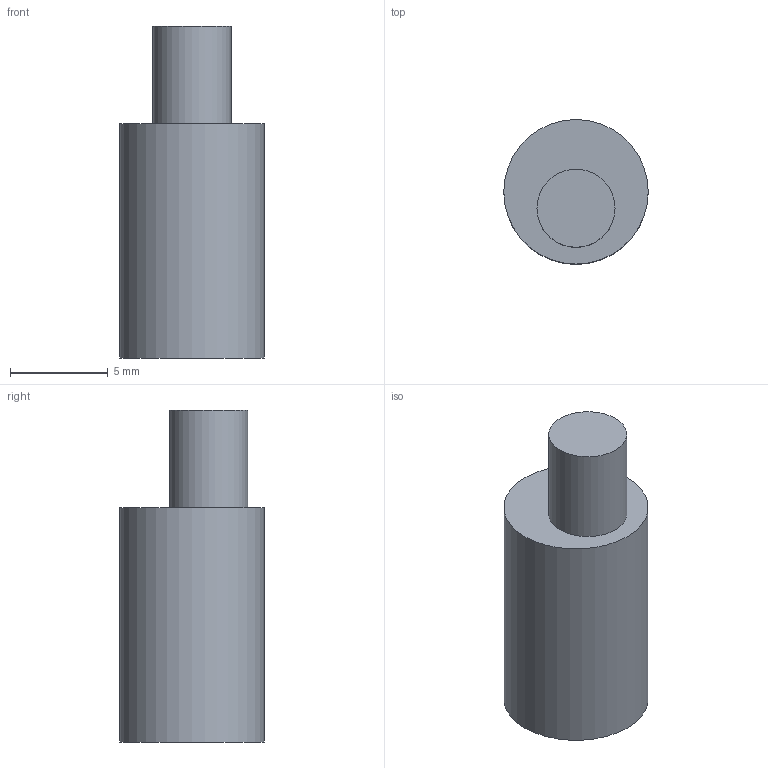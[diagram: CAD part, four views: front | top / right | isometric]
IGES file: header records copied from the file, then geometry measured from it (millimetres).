
Start section: Data from Parasolid IGES Translator 20.0.26, Copyright(c) 2006 Siemens P LM Software. All Rights Reserved.
Global section: file name: 9303934.igs; native system: By Siemens PLM Incorporated; preprocessor: XPlus GENERIC/IGES 20.0.26; author: Noname; organization: Noname; date: 20210922.162010; units: millimetre
Bounding box: 7.4 x 7.4 x 17 mm (x, y, z)
Surface area: 427.8 mm2 (no closed solid volume)
Topology: 0 solids, 0 shells, 5 faces, 12 edges, 8 vertices
Faces by surface type: extrusion 3, revolution 2
